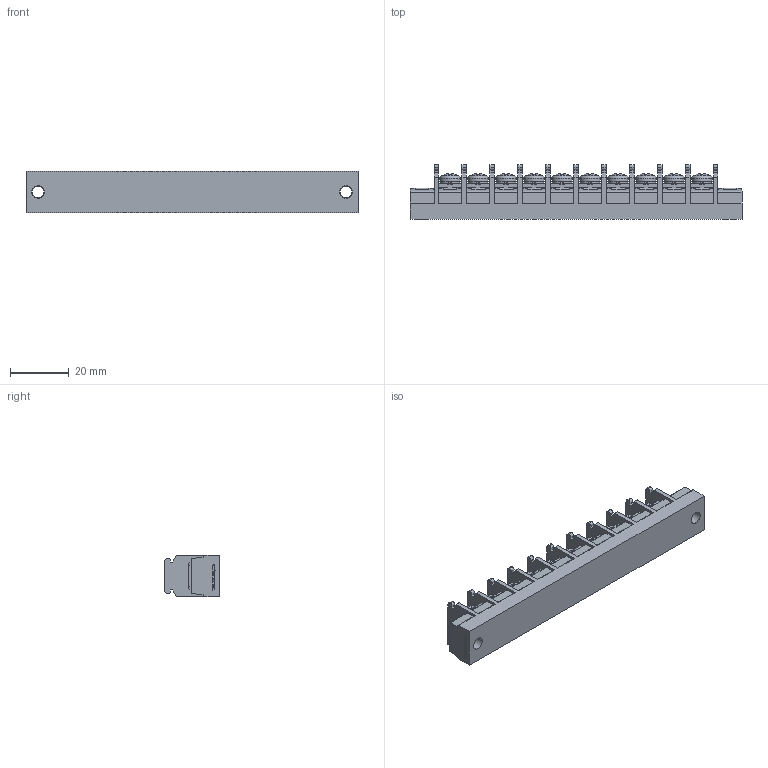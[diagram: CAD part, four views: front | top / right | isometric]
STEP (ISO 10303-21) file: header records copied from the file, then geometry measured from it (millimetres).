
FILE_DESCRIPTION(/* description */ ('Alibre Inc.'),/* implementation_level */ '2;1');
FILE_NAME(/* name */ 'export-224785F7-EFE0-42FD-B980-C9B5A9FCDC29',/* time_stamp */ '2021-02-13T15:55:16+09:00',/* author */ (''),/* organization */ (''),/* preprocessor_version */ 'ST-DEVELOPER v17',/* originating_system */ 'Alibre',/* authorisation */ '');
FILE_SCHEMA (('CONFIG_CONTROL_DESIGN'));
Length unit declared in the file: millimetre
Bounding box: 112.7 x 18.5 x 14 mm (x, y, z)
Volume: 18246.5 mm3; surface area: 11920.2 mm2
Topology: 1 solids, 27 shells, 1591 faces, 4564 edges, 3012 vertices
Faces by surface type: plane 1193, cylinder 214, bspline 104, cone 50, torus 20, sphere 10
Full cylindrical faces by diameter (mm): 4 x22, 4.2 x2, 7 x10
Entity records: 49348 total; most frequent: CARTESIAN_POINT 10052, ORIENTED_EDGE 8956, DIRECTION 6492, EDGE_CURVE 4478, VECTOR 3230, LINE 3230, VERTEX_POINT 2990, AXIS2_PLACEMENT_3D 2184
